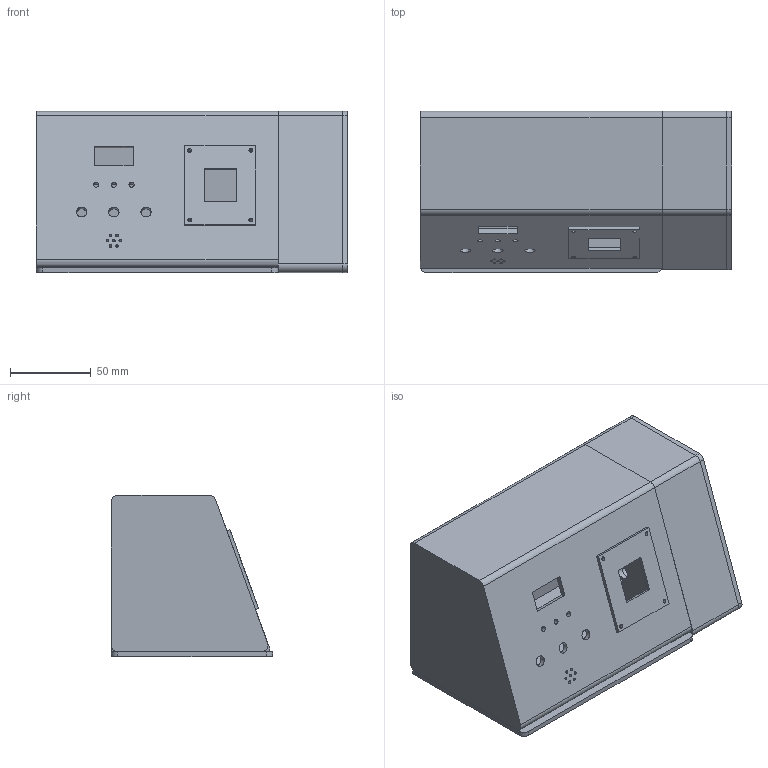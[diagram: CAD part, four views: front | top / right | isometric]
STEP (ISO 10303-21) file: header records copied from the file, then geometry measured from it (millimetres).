
FILE_DESCRIPTION(('Open CASCADE Model'),'2;1');
FILE_NAME('Open CASCADE Shape Model','2026-10-07T20:49:38',('Author'),( 'Open CASCADE'),'Open CASCADE STEP processor 7.9','Open CASCADE 7.9' ,'Unknown');
FILE_SCHEMA(('AUTOMOTIVE_DESIGN { 1 0 10303 214 1 1 1 1 }'));
Length unit declared in the file: millimetre
Products named in the file (6): desk_fingerprint_terminal_revision_A; main_body; base; battery_pod; battery_cover; sensor_adapter_r307
Assembly tree (5 placements, depth 2):
  desk_fingerprint_terminal_revision_A
    main_body
    base
    battery_pod
    battery_cover
    sensor_adapter_r307
Bounding box: 193 x 100 x 100 mm (x, y, z)
Volume: 310650.8 mm3; surface area: 204671.8 mm2
Topology: 5 solids, 5 shells, 157 faces, 408 edges, 272 vertices
Faces by surface type: plane 89, cylinder 68
Full cylindrical faces by diameter (mm): 1.6 x7, 2 x4, 2.4 x4, 2.6 x10, 3.2 x3, 3.4 x10, 6.5 x3, 8 x3
Entity records: 10597 total; most frequent: CARTESIAN_POINT 2306, DIRECTION 1487, ORIENTED_EDGE 816, PCURVE 816, DEFINITIONAL_REPRESENTATION 816, LINE 815, VECTOR 815, EDGE_CURVE 408
